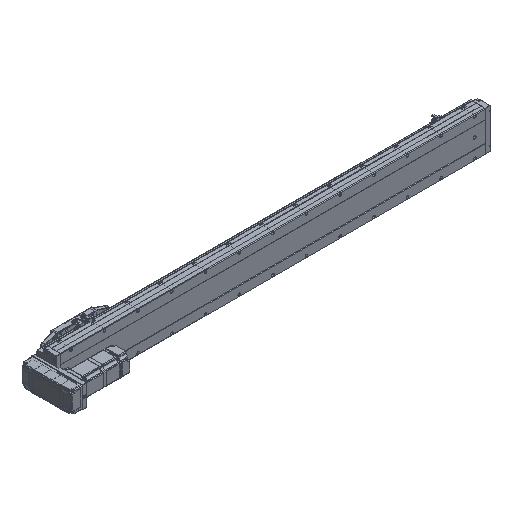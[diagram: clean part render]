
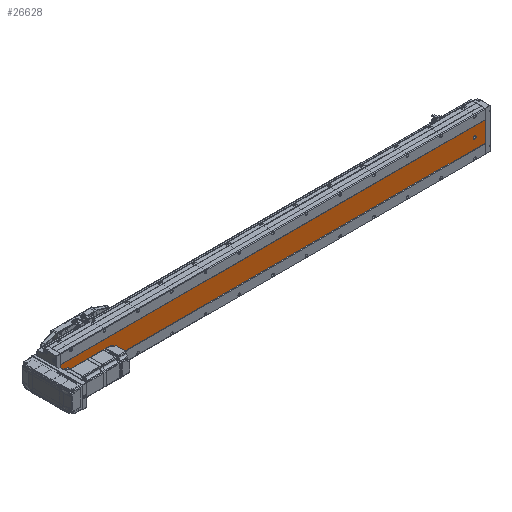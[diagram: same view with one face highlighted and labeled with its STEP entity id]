
A CAD part, isometric view. The second image highlights one B-rep face of the part: STEP entity #26628.
In plain terms, the highlighted planar face has unit normal (0, -1, 0).
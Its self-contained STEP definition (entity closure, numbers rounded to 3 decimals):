
#446 = AXIS2_PLACEMENT_3D ( 'NONE', #21644, #15394, #40457 ) ;
#570 = CARTESIAN_POINT ( 'NONE',  ( -69.892, -52.848, 1261. ) ) ;
#2553 = VERTEX_POINT ( 'NONE', #15138 ) ;
#3586 = ORIENTED_EDGE ( 'NONE', *, *, #45600, .T. ) ;
#4138 = CARTESIAN_POINT ( 'NONE',  ( -39.892, -52.848, 1231. ) ) ;
#4712 = EDGE_LOOP ( 'NONE', ( #15352, #57569, #52079, #43983 ) ) ;
#5175 = CARTESIAN_POINT ( 'NONE',  ( -43.392, -52.848, 1261. ) ) ;
#6287 = ORIENTED_EDGE ( 'NONE', *, *, #29505, .T. ) ;
#7539 = ORIENTED_EDGE ( 'NONE', *, *, #36666, .T. ) ;
#8605 = DIRECTION ( 'NONE',  ( 0., 1., 0. ) ) ;
#10210 = DIRECTION ( 'NONE',  ( 0., 0., 1. ) ) ;
#10360 = EDGE_CURVE ( 'NONE', #35514, #54671, #60754, .T. ) ;
#11867 = EDGE_CURVE ( 'NONE', #58597, #54671, #59621, .T. ) ;
#11964 = EDGE_CURVE ( 'NONE', #43736, #2553, #40302, .T. ) ;
#12036 = VECTOR ( 'NONE', #21916, 1000. ) ;
#13629 = DIRECTION ( 'NONE',  ( 1., 0., 0. ) ) ;
#13751 = AXIS2_PLACEMENT_3D ( 'NONE', #23512, #22963, #68458 ) ;
#14314 = DIRECTION ( 'NONE',  ( 0., 1., 0. ) ) ;
#14577 = DIRECTION ( 'NONE',  ( 0., 0., 1. ) ) ;
#14708 = DIRECTION ( 'NONE',  ( 0., 0., 1. ) ) ;
#15138 = CARTESIAN_POINT ( 'NONE',  ( -39.892, -52.848, 1234.5 ) ) ;
#15352 = ORIENTED_EDGE ( 'NONE', *, *, #10360, .T. ) ;
#15394 = DIRECTION ( 'NONE',  ( 0., 1., 0. ) ) ;
#16952 = DIRECTION ( 'NONE',  ( 0., 1., 0. ) ) ;
#17025 = VECTOR ( 'NONE', #17529, 1000. ) ;
#17529 = DIRECTION ( 'NONE',  ( 1., 0., 0. ) ) ;
#20952 = PLANE ( 'NONE',  #56346 ) ;
#21373 = CIRCLE ( 'NONE', #68534, 3.5 ) ;
#21644 = CARTESIAN_POINT ( 'NONE',  ( -39.892, -52.848, 1131. ) ) ;
#21916 = DIRECTION ( 'NONE',  ( 0., 0., -1. ) ) ;
#22908 = EDGE_CURVE ( 'NONE', #82031, #35514, #37493, .T. ) ;
#22963 = DIRECTION ( 'NONE',  ( 0., 1., 0. ) ) ;
#23489 = CARTESIAN_POINT ( 'NONE',  ( -69.892, -52.848, 0. ) ) ;
#23512 = CARTESIAN_POINT ( 'NONE',  ( -39.892, -52.848, 30. ) ) ;
#23779 = FACE_BOUND ( 'NONE', #43169, .T. ) ;
#24901 = EDGE_CURVE ( 'NONE', #43865, #40409, #53336, .T. ) ;
#26628 = ADVANCED_FACE ( 'NONE', ( #23779, #36031, #70655, #27848 ), #20952, .F. ) ;
#26966 = VERTEX_POINT ( 'NONE', #76369 ) ;
#27204 = DIRECTION ( 'NONE',  ( 0., 1., 0. ) ) ;
#27848 = FACE_OUTER_BOUND ( 'NONE', #4712, .T. ) ;
#28046 = VECTOR ( 'NONE', #64661, 1000. ) ;
#28072 = ORIENTED_EDGE ( 'NONE', *, *, #11964, .T. ) ;
#29126 = LINE ( 'NONE', #49662, #28046 ) ;
#29322 = CARTESIAN_POINT ( 'NONE',  ( -69.892, -52.848, 1261. ) ) ;
#29505 = EDGE_CURVE ( 'NONE', #40409, #26966, #67865, .T. ) ;
#31489 = CIRCLE ( 'NONE', #44305, 3.5 ) ;
#31642 = CARTESIAN_POINT ( 'NONE',  ( -43.392, -52.848, 32. ) ) ;
#33634 = CARTESIAN_POINT ( 'NONE',  ( -39.892, -52.848, 30. ) ) ;
#33926 = DIRECTION ( 'NONE',  ( 0., 0., 1. ) ) ;
#34046 = AXIS2_PLACEMENT_3D ( 'NONE', #74477, #74775, #10210 ) ;
#34313 = CARTESIAN_POINT ( 'NONE',  ( -69.892, -52.848, 1261. ) ) ;
#35414 = ORIENTED_EDGE ( 'NONE', *, *, #40988, .T. ) ;
#35514 = VERTEX_POINT ( 'NONE', #66949 ) ;
#36031 = FACE_BOUND ( 'NONE', #66399, .T. ) ;
#36666 = EDGE_CURVE ( 'NONE', #42204, #48222, #73925, .T. ) ;
#37493 = LINE ( 'NONE', #29322, #12036 ) ;
#38599 = VERTEX_POINT ( 'NONE', #82328 ) ;
#40302 = CIRCLE ( 'NONE', #71969, 3.5 ) ;
#40409 = VERTEX_POINT ( 'NONE', #71497 ) ;
#40457 = DIRECTION ( 'NONE',  ( 0., 0., 1. ) ) ;
#40487 = ORIENTED_EDGE ( 'NONE', *, *, #76167, .T. ) ;
#40988 = EDGE_CURVE ( 'NONE', #26966, #83018, #78086, .T. ) ;
#41752 = CARTESIAN_POINT ( 'NONE',  ( -39.892, -52.848, 32. ) ) ;
#42204 = VERTEX_POINT ( 'NONE', #51367 ) ;
#43169 = EDGE_LOOP ( 'NONE', ( #75036, #3586, #43240, #6287, #35414 ) ) ;
#43240 = ORIENTED_EDGE ( 'NONE', *, *, #24901, .T. ) ;
#43469 = DIRECTION ( 'NONE',  ( 0., 0., 1. ) ) ;
#43736 = VERTEX_POINT ( 'NONE', #57897 ) ;
#43865 = VERTEX_POINT ( 'NONE', #78346 ) ;
#43983 = ORIENTED_EDGE ( 'NONE', *, *, #22908, .T. ) ;
#44305 = AXIS2_PLACEMENT_3D ( 'NONE', #41752, #49995, #43469 ) ;
#45600 = EDGE_CURVE ( 'NONE', #38599, #43865, #29126, .T. ) ;
#48222 = VERTEX_POINT ( 'NONE', #75161 ) ;
#49662 = CARTESIAN_POINT ( 'NONE',  ( -36.392, -52.848, 1261. ) ) ;
#49995 = DIRECTION ( 'NONE',  ( 0., 1., 0. ) ) ;
#50025 = CARTESIAN_POINT ( 'NONE',  ( -69.892, -52.848, 1261. ) ) ;
#51367 = CARTESIAN_POINT ( 'NONE',  ( -39.892, -52.848, 1127.5 ) ) ;
#52079 = ORIENTED_EDGE ( 'NONE', *, *, #78463, .F. ) ;
#53336 = CIRCLE ( 'NONE', #13751, 3.5 ) ;
#54671 = VERTEX_POINT ( 'NONE', #77798 ) ;
#56346 = AXIS2_PLACEMENT_3D ( 'NONE', #34313, #27204, #14708 ) ;
#56715 = VECTOR ( 'NONE', #75427, 1000. ) ;
#57569 = ORIENTED_EDGE ( 'NONE', *, *, #11867, .F. ) ;
#57897 = CARTESIAN_POINT ( 'NONE',  ( -39.892, -52.848, 1227.5 ) ) ;
#58597 = VERTEX_POINT ( 'NONE', #74295 ) ;
#59049 = VECTOR ( 'NONE', #13629, 1000. ) ;
#59621 = LINE ( 'NONE', #79788, #61678 ) ;
#59708 = ORIENTED_EDGE ( 'NONE', *, *, #70391, .T. ) ;
#59817 = CARTESIAN_POINT ( 'NONE',  ( -39.892, -52.848, 1131. ) ) ;
#60754 = LINE ( 'NONE', #23489, #17025 ) ;
#61678 = VECTOR ( 'NONE', #72983, 1000. ) ;
#64661 = DIRECTION ( 'NONE',  ( 0., 0., -1. ) ) ;
#64899 = EDGE_CURVE ( 'NONE', #83018, #38599, #31489, .T. ) ;
#66399 = EDGE_LOOP ( 'NONE', ( #7539, #59708 ) ) ;
#66949 = CARTESIAN_POINT ( 'NONE',  ( -69.892, -52.848, 0. ) ) ;
#67397 = AXIS2_PLACEMENT_3D ( 'NONE', #33634, #14314, #14577 ) ;
#67865 = CIRCLE ( 'NONE', #67397, 3.5 ) ;
#68458 = DIRECTION ( 'NONE',  ( 0., 0., 1. ) ) ;
#68534 = AXIS2_PLACEMENT_3D ( 'NONE', #59817, #8605, #33926 ) ;
#69160 = CIRCLE ( 'NONE', #34046, 3.5 ) ;
#69836 = DIRECTION ( 'NONE',  ( 0., 0., 1. ) ) ;
#70391 = EDGE_CURVE ( 'NONE', #48222, #42204, #21373, .T. ) ;
#70655 = FACE_BOUND ( 'NONE', #77637, .T. ) ;
#71497 = CARTESIAN_POINT ( 'NONE',  ( -39.892, -52.848, 26.5 ) ) ;
#71969 = AXIS2_PLACEMENT_3D ( 'NONE', #4138, #16952, #69836 ) ;
#72983 = DIRECTION ( 'NONE',  ( 0., 0., -1. ) ) ;
#73323 = LINE ( 'NONE', #570, #59049 ) ;
#73925 = CIRCLE ( 'NONE', #446, 3.5 ) ;
#74295 = CARTESIAN_POINT ( 'NONE',  ( -9.892, -52.848, 1261. ) ) ;
#74477 = CARTESIAN_POINT ( 'NONE',  ( -39.892, -52.848, 1231. ) ) ;
#74775 = DIRECTION ( 'NONE',  ( 0., 1., 0. ) ) ;
#75036 = ORIENTED_EDGE ( 'NONE', *, *, #64899, .T. ) ;
#75161 = CARTESIAN_POINT ( 'NONE',  ( -39.892, -52.848, 1134.5 ) ) ;
#75427 = DIRECTION ( 'NONE',  ( 0., 0., 1. ) ) ;
#76167 = EDGE_CURVE ( 'NONE', #2553, #43736, #69160, .T. ) ;
#76369 = CARTESIAN_POINT ( 'NONE',  ( -43.392, -52.848, 30. ) ) ;
#77637 = EDGE_LOOP ( 'NONE', ( #28072, #40487 ) ) ;
#77798 = CARTESIAN_POINT ( 'NONE',  ( -9.892, -52.848, 0. ) ) ;
#78086 = LINE ( 'NONE', #5175, #56715 ) ;
#78346 = CARTESIAN_POINT ( 'NONE',  ( -36.392, -52.848, 30. ) ) ;
#78463 = EDGE_CURVE ( 'NONE', #82031, #58597, #73323, .T. ) ;
#79788 = CARTESIAN_POINT ( 'NONE',  ( -9.892, -52.848, 1261. ) ) ;
#82031 = VERTEX_POINT ( 'NONE', #50025 ) ;
#82328 = CARTESIAN_POINT ( 'NONE',  ( -36.392, -52.848, 32. ) ) ;
#83018 = VERTEX_POINT ( 'NONE', #31642 ) ;
